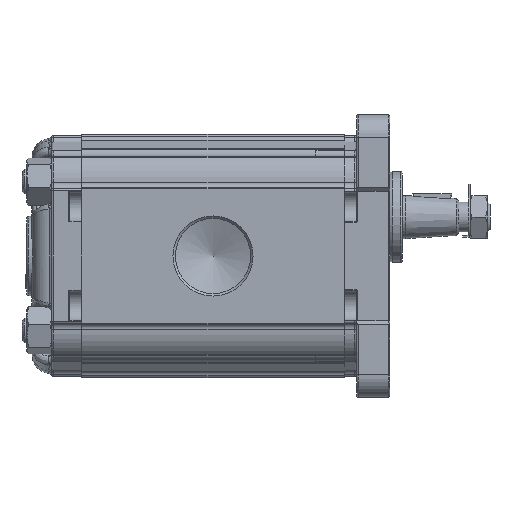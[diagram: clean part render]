
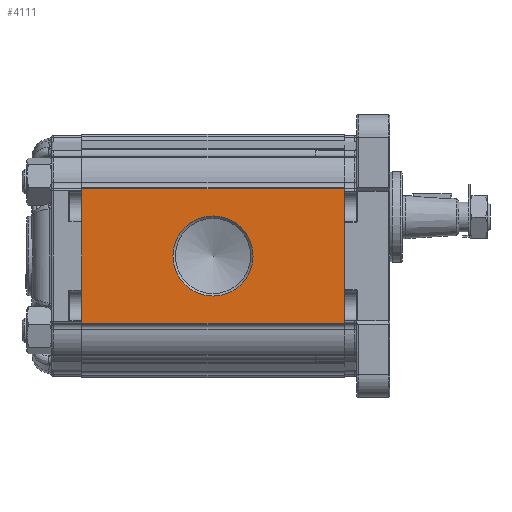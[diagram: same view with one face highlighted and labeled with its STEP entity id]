
A CAD part, left-side view. The second image highlights one B-rep face of the part: STEP entity #4111.
In plain terms, the highlighted planar face has unit normal (-1, 0, 0).
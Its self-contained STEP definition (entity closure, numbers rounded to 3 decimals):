
#4111 = ADVANCED_FACE( '', ( #9112, #9113 ), #9114, .T. );
#9112 = FACE_BOUND( '', #16611, .T. );
#9113 = FACE_OUTER_BOUND( '', #16612, .T. );
#9114 = PLANE( '', #16613 );
#16611 = EDGE_LOOP( '', ( #30384 ) );
#16612 = EDGE_LOOP( '', ( #30385, #30386, #30387, #30388 ) );
#16613 = AXIS2_PLACEMENT_3D( '', #30389, #30390, #30391 );
#30384 = ORIENTED_EDGE( '', *, *, #41887, .T. );
#30385 = ORIENTED_EDGE( '', *, *, #37993, .F. );
#30386 = ORIENTED_EDGE( '', *, *, #38053, .F. );
#30387 = ORIENTED_EDGE( '', *, *, #42090, .T. );
#30388 = ORIENTED_EDGE( '', *, *, #42626, .T. );
#30389 = CARTESIAN_POINT( '', ( -43., 106., 27.048 ) );
#30390 = DIRECTION( '', ( -1., 0., 0. ) );
#30391 = DIRECTION( '', ( 0., 0., 1. ) );
#37993 = EDGE_CURVE( '', #44991, #44993, #44994, .T. );
#38053 = EDGE_CURVE( '', #45096, #44991, #45098, .T. );
#41887 = EDGE_CURVE( '', #51174, #51174, #51175, .F. );
#42090 = EDGE_CURVE( '', #45096, #51437, #51439, .T. );
#42626 = EDGE_CURVE( '', #51437, #44993, #52106, .T. );
#44991 = VERTEX_POINT( '', #55552 );
#44993 = VERTEX_POINT( '', #55554 );
#44994 = LINE( '', #55555, #55556 );
#45096 = VERTEX_POINT( '', #55728 );
#45098 = LINE( '', #55730, #55731 );
#51174 = VERTEX_POINT( '', #67564 );
#51175 = CIRCLE( '', #67565, 16.146 );
#51437 = VERTEX_POINT( '', #68090 );
#51439 = LINE( '', #68092, #68093 );
#52106 = LINE( '', #69622, #69623 );
#55552 = CARTESIAN_POINT( '', ( -43., 0., 27.048 ) );
#55554 = CARTESIAN_POINT( '', ( -43., 0., -27.048 ) );
#55555 = CARTESIAN_POINT( '', ( -43., 0., 27.048 ) );
#55556 = VECTOR( '', #73478, 1000. );
#55728 = CARTESIAN_POINT( '', ( -43., 106., 27.048 ) );
#55730 = CARTESIAN_POINT( '', ( -43., 106., 27.048 ) );
#55731 = VECTOR( '', #73574, 1000. );
#67564 = CARTESIAN_POINT( '', ( -43., 53., 16.146 ) );
#67565 = AXIS2_PLACEMENT_3D( '', #77914, #77915, #77916 );
#68090 = CARTESIAN_POINT( '', ( -43., 106., -27.048 ) );
#68092 = CARTESIAN_POINT( '', ( -43., 106., 27.048 ) );
#68093 = VECTOR( '', #78103, 1000. );
#69622 = CARTESIAN_POINT( '', ( -43., 106., -27.048 ) );
#69623 = VECTOR( '', #78634, 1000. );
#73478 = DIRECTION( '', ( 0., 0., -1. ) );
#73574 = DIRECTION( '', ( 0., -1., 0. ) );
#77914 = CARTESIAN_POINT( '', ( -43., 53., 0. ) );
#77915 = DIRECTION( '', ( -1., 0., 0. ) );
#77916 = DIRECTION( '', ( 0., 0., 1. ) );
#78103 = DIRECTION( '', ( 0., 0., -1. ) );
#78634 = DIRECTION( '', ( 0., -1., 0. ) );
